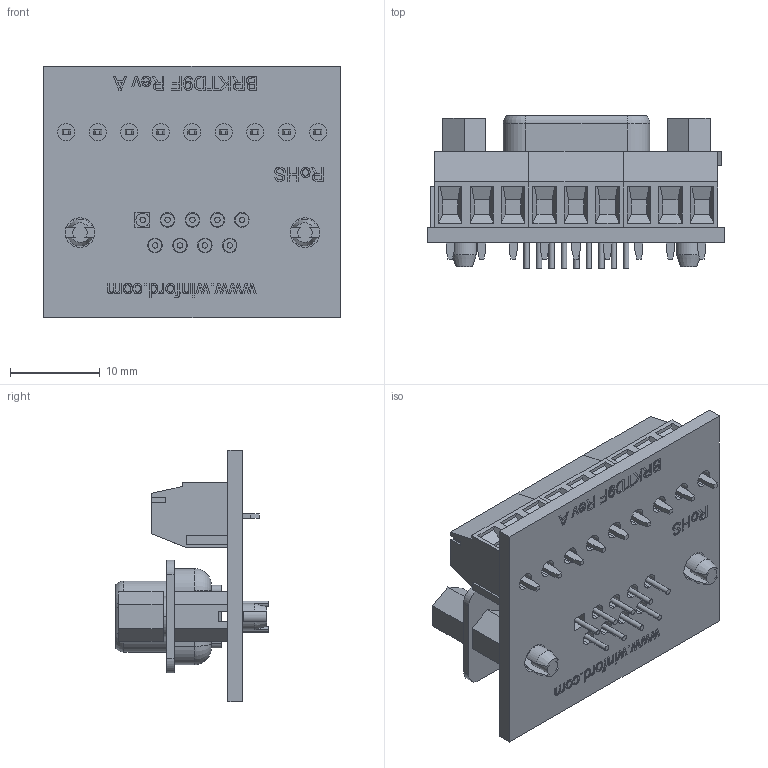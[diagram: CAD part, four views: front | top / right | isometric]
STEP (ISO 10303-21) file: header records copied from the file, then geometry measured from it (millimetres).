
FILE_DESCRIPTION (( 'STEP AP214' ), '1' );
FILE_NAME ('brktd9f-s_rev_a.step', '2021-08-26T19:22:14', ( '' ), ( '' ), 'SwSTEP 2.0', 'SolidWorks 2018', '' );
FILE_SCHEMA (( 'AUTOMOTIVE_DESIGN' ));
Length unit declared in the file: inch
Products named in the file (4): Straight Female Connector; brktd9f-s_rev_a; Screw Terminal 3 Position_Blue; BRKTD9F Breakout Board
Assembly tree (5 placements, depth 2):
  brktd9f-s_rev_a
    BRKTD9F Breakout Board
    Straight Female Connector
    Screw Terminal 3 Position_Blue  x3
Bounding box: 33.02 x 17 x 27.94 mm (x, y, z)
Volume: 3686.6 mm3; surface area: 6056.8 mm2
Topology: 2 solids, 14 shells, 1501 faces, 3918 edges, 2570 vertices
Faces by surface type: plane 894, bspline 288, cylinder 267, cone 40, torus 12
Entity records: 55514 total; most frequent: CARTESIAN_POINT 21985, ORIENTED_EDGE 5568, DIRECTION 4201, EDGE_CURVE 2790, VERTEX_POINT 1836, LINE 1817, VECTOR 1817, EDGE_LOOP 1218
